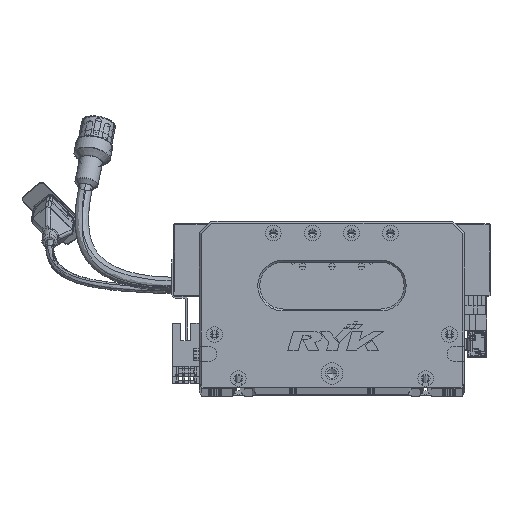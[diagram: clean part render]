
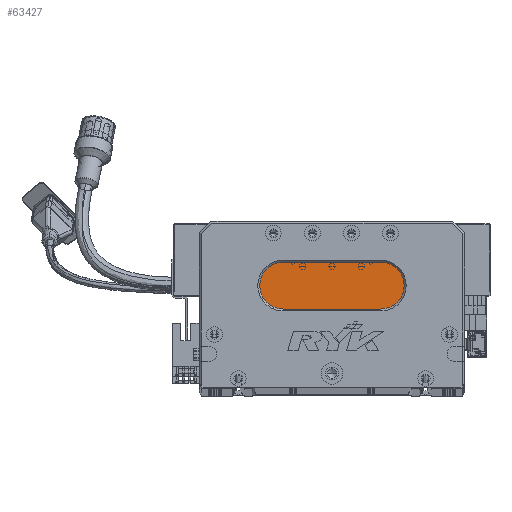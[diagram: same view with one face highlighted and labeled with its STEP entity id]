
A CAD part, top view. The second image highlights one B-rep face of the part: STEP entity #63427.
In plain terms, the highlighted planar face has unit normal (0, 0, 1) as drawn and (0, 0, -1) by its records, which use the part's own axes.
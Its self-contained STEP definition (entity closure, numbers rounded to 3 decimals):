
#2708 = AXIS2_PLACEMENT_3D ( 'NONE', #34144, #53091, #32491 ) ;
#9347 = VERTEX_POINT ( 'NONE', #42967 ) ;
#10427 = DIRECTION ( 'NONE',  ( 0., 0., -1. ) ) ;
#10866 = FACE_OUTER_BOUND ( 'NONE', #29752, .T. ) ;
#11677 = PLANE ( 'NONE',  #73414 ) ;
#18959 = DIRECTION ( 'NONE',  ( -1., 0., 0. ) ) ;
#21227 = CARTESIAN_POINT ( 'NONE',  ( 93., 64., 13. ) ) ;
#25703 = CIRCLE ( 'NONE', #53370, 12. ) ;
#27095 = CARTESIAN_POINT ( 'NONE',  ( 93., 52., 13. ) ) ;
#28046 = CARTESIAN_POINT ( 'NONE',  ( 43., 52., 13. ) ) ;
#28292 = CARTESIAN_POINT ( 'NONE',  ( 43., 64., 13. ) ) ;
#28652 = CIRCLE ( 'NONE', #71791, 12. ) ;
#29470 = ORIENTED_EDGE ( 'NONE', *, *, #40822, .T. ) ;
#29752 = EDGE_LOOP ( 'NONE', ( #68018, #103313, #29470, #51874, #50393 ) ) ;
#32491 = DIRECTION ( 'NONE',  ( -1., 0., 0. ) ) ;
#34144 = CARTESIAN_POINT ( 'NONE',  ( 43., 52., 13. ) ) ;
#38992 = CARTESIAN_POINT ( 'NONE',  ( 93., 40., 13. ) ) ;
#40822 = EDGE_CURVE ( 'NONE', #9347, #95968, #25703, .T. ) ;
#42967 = CARTESIAN_POINT ( 'NONE',  ( 43., 40., 13. ) ) ;
#45157 = EDGE_CURVE ( 'NONE', #95968, #45500, #72007, .T. ) ;
#45500 = VERTEX_POINT ( 'NONE', #28292 ) ;
#48088 = DIRECTION ( 'NONE',  ( -1., 0., 0. ) ) ;
#49642 = DIRECTION ( 'NONE',  ( -1., 0., 0. ) ) ;
#50393 = ORIENTED_EDGE ( 'NONE', *, *, #107389, .T. ) ;
#51874 = ORIENTED_EDGE ( 'NONE', *, *, #45157, .T. ) ;
#53091 = DIRECTION ( 'NONE',  ( 0., 0., -1. ) ) ;
#53370 = AXIS2_PLACEMENT_3D ( 'NONE', #28046, #75494, #18959 ) ;
#53907 = VERTEX_POINT ( 'NONE', #90190 ) ;
#57741 = VECTOR ( 'NONE', #48088, 1000. ) ;
#63427 = ADVANCED_FACE ( 'NONE', ( #10866 ), #11677, .T. ) ;
#63713 = CARTESIAN_POINT ( 'NONE',  ( 31., 52., 13. ) ) ;
#68018 = ORIENTED_EDGE ( 'NONE', *, *, #102809, .T. ) ;
#70329 = DIRECTION ( 'NONE',  ( 1., 0., 0. ) ) ;
#71791 = AXIS2_PLACEMENT_3D ( 'NONE', #27095, #93953, #74543 ) ;
#72007 = CIRCLE ( 'NONE', #2708, 12. ) ;
#73414 = AXIS2_PLACEMENT_3D ( 'NONE', #77695, #10427, #49642 ) ;
#74543 = DIRECTION ( 'NONE',  ( -1., 0., 0. ) ) ;
#75494 = DIRECTION ( 'NONE',  ( 0., 0., -1. ) ) ;
#76883 = LINE ( 'NONE', #38992, #57741 ) ;
#77695 = CARTESIAN_POINT ( 'NONE',  ( 93., 52., 13. ) ) ;
#88633 = VERTEX_POINT ( 'NONE', #21227 ) ;
#89677 = VECTOR ( 'NONE', #70329, 1000. ) ;
#90190 = CARTESIAN_POINT ( 'NONE',  ( 93., 40., 13. ) ) ;
#93953 = DIRECTION ( 'NONE',  ( 0., 0., -1. ) ) ;
#95968 = VERTEX_POINT ( 'NONE', #63713 ) ;
#102809 = EDGE_CURVE ( 'NONE', #88633, #53907, #28652, .T. ) ;
#103313 = ORIENTED_EDGE ( 'NONE', *, *, #104732, .T. ) ;
#104732 = EDGE_CURVE ( 'NONE', #53907, #9347, #76883, .T. ) ;
#107389 = EDGE_CURVE ( 'NONE', #45500, #88633, #114909, .T. ) ;
#114909 = LINE ( 'NONE', #118270, #89677 ) ;
#118270 = CARTESIAN_POINT ( 'NONE',  ( 93., 64., 13. ) ) ;
